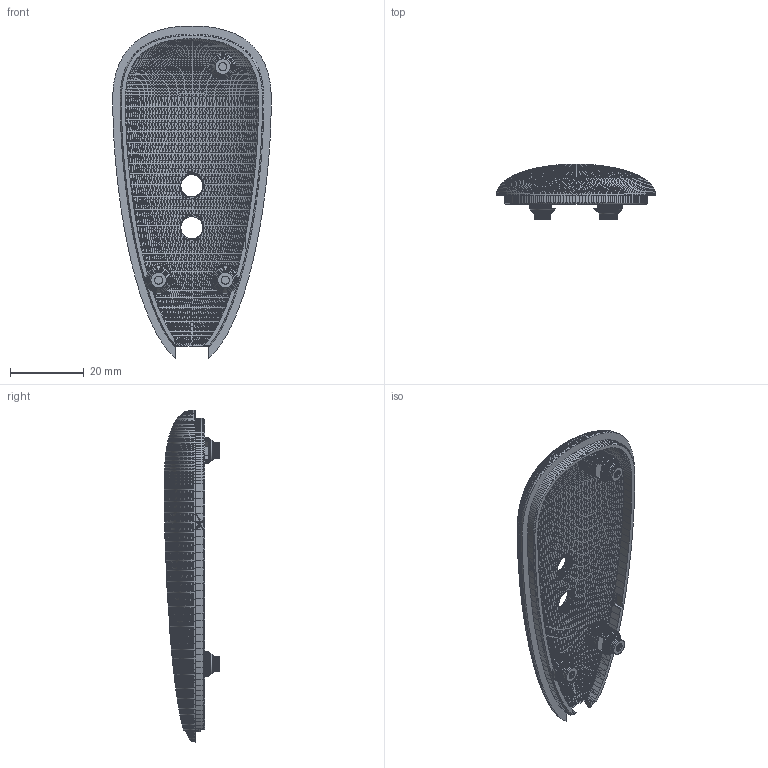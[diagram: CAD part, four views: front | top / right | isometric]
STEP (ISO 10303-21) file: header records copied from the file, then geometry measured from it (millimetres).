
FILE_DESCRIPTION(('Open CASCADE Model'),'2;1');
FILE_NAME('Open CASCADE Shape Model','2026-11-12T09:26:44',('Author'),( 'Open CASCADE'),'Open CASCADE STEP processor 7.9','Open CASCADE 7.9' ,'Unknown');
FILE_SCHEMA(('AUTOMOTIVE_DESIGN { 1 0 10303 214 1 1 1 1 }'));
Products named in the file (1): Open CASCADE STEP translator 7.9 2
Bounding box: 43.08 x 15.12 x 90.25 mm (x, y, z)
Volume: 10377.3 mm3; surface area: 8921.6 mm2
Topology: 1 solids, 1 shells, 23004 faces, 36892 edges, 13889 vertices
Faces by surface type: plane 23004
Entity records: 917352 total; most frequent: CARTESIAN_POINT 179904, DIRECTION 124352, LINE 78342, VECTOR 78342, ORIENTED_EDGE 73784, PCURVE 73784, DEFINITIONAL_REPRESENTATION 73784, EDGE_CURVE 36892
